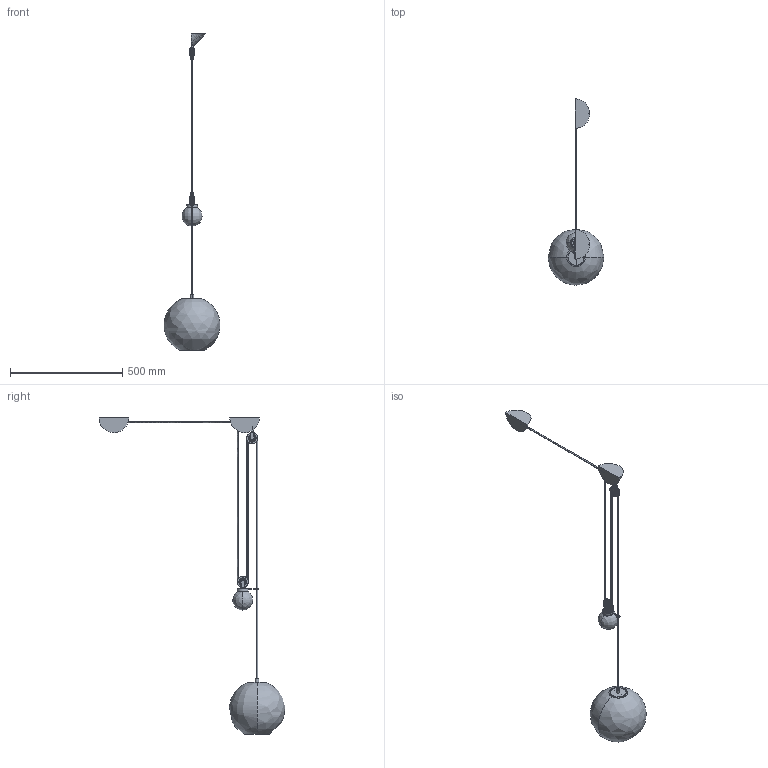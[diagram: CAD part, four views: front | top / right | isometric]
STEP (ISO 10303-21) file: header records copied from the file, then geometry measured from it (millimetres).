
FILE_DESCRIPTION(/* description */ (''),/* implementation_level */ '2;1');
FILE_NAME(/* name */ 'Aggregato_Saliscendi_Sferico_Decentrato_d25_3D',/* time_stamp */ '2021-10-25T18:30:45+02:00',/* author */ (''),/* organization */ (''),/* preprocessor_version */ 'ST-DEVELOPER v15',/* originating_system */ '',/* authorisation */ '');
FILE_SCHEMA (('AUTOMOTIVE_DESIGN'));
Length unit declared in the file: millimetre
Products named in the file (5): Document; (#3574) Blocco 02; (#3573) Blocco 03; (#3572) Blocco 05; (#3571) Blocco 04
Assembly tree (4 placements, depth 2):
  Document
    (#3574) Blocco 02
    (#3573) Blocco 03
    (#3572) Blocco 05
    (#3571) Blocco 04
Bounding box: 249.66 x 828.84 x 1409.57 mm (x, y, z)
Volume: 380176 mm3; surface area: 391726.3 mm2
Topology: 2 solids, 104 shells, 158 faces, 484 edges, 417 vertices
Faces by surface type: bspline 82, plane 76
Entity records: 6895 total; most frequent: CARTESIAN_POINT 4096, ORIENTED_EDGE 588, EDGE_CURVE 478, VERTEX_POINT 417, EDGE_LOOP 168, ADVANCED_FACE 156, FACE_OUTER_BOUND 156, B_SPLINE_CURVE_WITH_KNOTS 137
